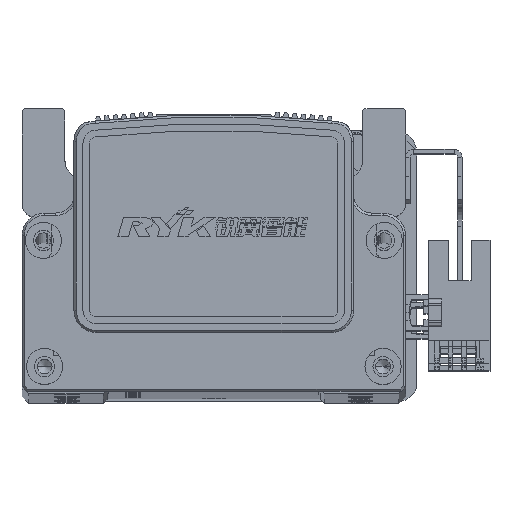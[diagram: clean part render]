
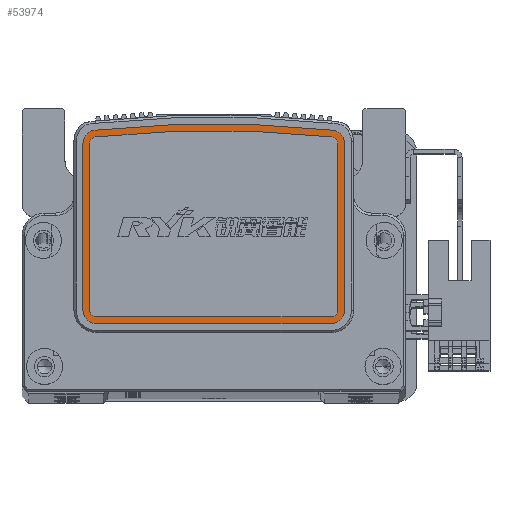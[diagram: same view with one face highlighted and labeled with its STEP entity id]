
A CAD part, top view. The second image highlights one B-rep face of the part: STEP entity #53974.
In plain terms, the highlighted planar face has unit normal (0, 0, 1) as drawn and (1, 0, 0) by its records, which use the part's own axes.
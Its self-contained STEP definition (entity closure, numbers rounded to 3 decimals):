
#5803 = VERTEX_POINT ( 'NONE', #61791 ) ;
#5884 = VERTEX_POINT ( 'NONE', #61840 ) ;
#6144 = VERTEX_POINT ( 'NONE', #61816 ) ;
#6148 = VERTEX_POINT ( 'NONE', #61833 ) ;
#12214 = VERTEX_POINT ( 'NONE', #54952 ) ;
#12228 = VERTEX_POINT ( 'NONE', #54923 ) ;
#12239 = VERTEX_POINT ( 'NONE', #54943 ) ;
#12240 = VERTEX_POINT ( 'NONE', #54944 ) ;
#12242 = VERTEX_POINT ( 'NONE', #54961 ) ;
#12247 = VERTEX_POINT ( 'NONE', #55009 ) ;
#12253 = VERTEX_POINT ( 'NONE', #55015 ) ;
#12286 = VERTEX_POINT ( 'NONE', #55003 ) ;
#15565 = EDGE_CURVE ( 'NONE', #6144, #5803, #63987, .T. ) ;
#15594 = EDGE_CURVE ( 'NONE', #58972, #58810, #62864, .T. ) ;
#15597 = EDGE_CURVE ( 'NONE', #59183, #58850, #63091, .T. ) ;
#15599 = EDGE_CURVE ( 'NONE', #5884, #58972, #63263, .T. ) ;
#15615 = EDGE_CURVE ( 'NONE', #58810, #6148, #63980, .T. ) ;
#15620 = EDGE_CURVE ( 'NONE', #6148, #6144, #65916, .T. ) ;
#15629 = EDGE_CURVE ( 'NONE', #58850, #5884, #65879, .T. ) ;
#15640 = EDGE_CURVE ( 'NONE', #5803, #59183, #65883, .T. ) ;
#17728 = FACE_BOUND ( 'NONE', #18433, .T. ) ;
#17812 = FACE_OUTER_BOUND ( 'NONE', #18425, .T. ) ;
#18425 = EDGE_LOOP ( 'NONE', ( #36931, #36920, #36959, #36987, #36925, #36942, #36892, #36935 ) ) ;
#18433 = EDGE_LOOP ( 'NONE', ( #36879, #36924, #36966, #36889, #36896, #36984, #36926, #36921 ) ) ;
#18628 = CIRCLE ( 'NONE', #56579, 3. ) ;
#18644 = LINE ( 'NONE', #21274, #18647 ) ;
#18647 = VECTOR ( 'NONE', #21250, 1000. ) ;
#18670 = CIRCLE ( 'NONE', #56589, 3. ) ;
#18679 = CIRCLE ( 'NONE', #56584, 3. ) ;
#18686 = CIRCLE ( 'NONE', #56690, 246.313 ) ;
#18713 = CIRCLE ( 'NONE', #56671, 3. ) ;
#18717 = LINE ( 'NONE', #21256, #18732 ) ;
#18721 = LINE ( 'NONE', #22296, #18726 ) ;
#18726 = VECTOR ( 'NONE', #22285, 1000. ) ;
#18732 = VECTOR ( 'NONE', #21258, 1000. ) ;
#19316 = DIRECTION ( 'NONE',  ( 1., 0., 0. ) ) ;
#19319 = DIRECTION ( 'NONE',  ( 0., 0., -1. ) ) ;
#19345 = PLANE ( 'NONE',  #56414 ) ;
#19354 = CARTESIAN_POINT ( 'NONE',  ( 9., 19.871, 26. ) ) ;
#21250 = DIRECTION ( 'NONE',  ( 0., -1., 0. ) ) ;
#21256 = CARTESIAN_POINT ( 'NONE',  ( 9., -17., -29. ) ) ;
#21258 = DIRECTION ( 'NONE',  ( 0., 1., 0. ) ) ;
#21274 = CARTESIAN_POINT ( 'NONE',  ( 9., 19.871, 29. ) ) ;
#21312 = CARTESIAN_POINT ( 'NONE',  ( 9., -17., -27.5 ) ) ;
#21322 = CARTESIAN_POINT ( 'NONE',  ( 9., 19.871, -27.5 ) ) ;
#21330 = CARTESIAN_POINT ( 'NONE',  ( 9., -17., 27.5 ) ) ;
#21332 = CARTESIAN_POINT ( 'NONE',  ( 9., -18.5, 26. ) ) ;
#22221 = DIRECTION ( 'NONE',  ( 0., 0., 1. ) ) ;
#22223 = CARTESIAN_POINT ( 'NONE',  ( 9., 19.871, 26. ) ) ;
#22232 = DIRECTION ( 'NONE',  ( 1., 0., 0. ) ) ;
#22242 = DIRECTION ( 'NONE',  ( 1., 0., 0. ) ) ;
#22243 = CARTESIAN_POINT ( 'NONE',  ( 9., 19.871, -26. ) ) ;
#22244 = DIRECTION ( 'NONE',  ( 0., 0., -1. ) ) ;
#22285 = DIRECTION ( 'NONE',  ( 0., 0., -1. ) ) ;
#22287 = DIRECTION ( 'NONE',  ( 1., 0., 0. ) ) ;
#22291 = DIRECTION ( 'NONE',  ( 0., 0., -1. ) ) ;
#22295 = CARTESIAN_POINT ( 'NONE',  ( 9., -17., 26. ) ) ;
#22296 = CARTESIAN_POINT ( 'NONE',  ( 9., -20., 26. ) ) ;
#22330 = DIRECTION ( 'NONE',  ( 1., 0., 0. ) ) ;
#22332 = CARTESIAN_POINT ( 'NONE',  ( 9., -222.049, 0. ) ) ;
#22333 = DIRECTION ( 'NONE',  ( 0., 0., -1. ) ) ;
#22348 = DIRECTION ( 'NONE',  ( 0., 0., -1. ) ) ;
#22356 = CARTESIAN_POINT ( 'NONE',  ( 9., -17., -26. ) ) ;
#22358 = DIRECTION ( 'NONE',  ( 1., 0., 0. ) ) ;
#36879 = ORIENTED_EDGE ( 'NONE', *, *, #15620, .F. ) ;
#36889 = ORIENTED_EDGE ( 'NONE', *, *, #15599, .F. ) ;
#36892 = ORIENTED_EDGE ( 'NONE', *, *, #69757, .T. ) ;
#36896 = ORIENTED_EDGE ( 'NONE', *, *, #15629, .F. ) ;
#36920 = ORIENTED_EDGE ( 'NONE', *, *, #69776, .T. ) ;
#36921 = ORIENTED_EDGE ( 'NONE', *, *, #15565, .F. ) ;
#36924 = ORIENTED_EDGE ( 'NONE', *, *, #15615, .F. ) ;
#36925 = ORIENTED_EDGE ( 'NONE', *, *, #69813, .T. ) ;
#36926 = ORIENTED_EDGE ( 'NONE', *, *, #15640, .F. ) ;
#36931 = ORIENTED_EDGE ( 'NONE', *, *, #69766, .T. ) ;
#36935 = ORIENTED_EDGE ( 'NONE', *, *, #69803, .T. ) ;
#36942 = ORIENTED_EDGE ( 'NONE', *, *, #69782, .T. ) ;
#36959 = ORIENTED_EDGE ( 'NONE', *, *, #69786, .T. ) ;
#36966 = ORIENTED_EDGE ( 'NONE', *, *, #15594, .F. ) ;
#36984 = ORIENTED_EDGE ( 'NONE', *, *, #15597, .F. ) ;
#36987 = ORIENTED_EDGE ( 'NONE', *, *, #69788, .T. ) ;
#53974 = ADVANCED_FACE ( 'NONE', ( #17728, #17812 ), #19345, .T. ) ;
#54923 = CARTESIAN_POINT ( 'NONE',  ( 9., 19.871, 29. ) ) ;
#54943 = CARTESIAN_POINT ( 'NONE',  ( 9., 19.871, -29. ) ) ;
#54944 = CARTESIAN_POINT ( 'NONE',  ( 9., 22.854, -26.321 ) ) ;
#54952 = CARTESIAN_POINT ( 'NONE',  ( 9., -17., -29. ) ) ;
#54961 = CARTESIAN_POINT ( 'NONE',  ( 9., -17., 29. ) ) ;
#55003 = CARTESIAN_POINT ( 'NONE',  ( 9., -20., -26. ) ) ;
#55009 = CARTESIAN_POINT ( 'NONE',  ( 9., -20., 26. ) ) ;
#55015 = CARTESIAN_POINT ( 'NONE',  ( 9., 22.854, 26.321 ) ) ;
#55709 = AXIS2_PLACEMENT_3D ( 'NONE', #65423, #65426, #65436 ) ;
#55715 = AXIS2_PLACEMENT_3D ( 'NONE', #65466, #65502, #65493 ) ;
#55725 = AXIS2_PLACEMENT_3D ( 'NONE', #65441, #65425, #65435 ) ;
#55726 = AXIS2_PLACEMENT_3D ( 'NONE', #65474, #65471, #65473 ) ;
#55736 = AXIS2_PLACEMENT_3D ( 'NONE', #65376, #65348, #65366 ) ;
#56414 = AXIS2_PLACEMENT_3D ( 'NONE', #19354, #19316, #19319 ) ;
#56579 = AXIS2_PLACEMENT_3D ( 'NONE', #22243, #22242, #22244 ) ;
#56584 = AXIS2_PLACEMENT_3D ( 'NONE', #22295, #22287, #22291 ) ;
#56589 = AXIS2_PLACEMENT_3D ( 'NONE', #22223, #22232, #22221 ) ;
#56671 = AXIS2_PLACEMENT_3D ( 'NONE', #22356, #22358, #22348 ) ;
#56690 = AXIS2_PLACEMENT_3D ( 'NONE', #22332, #22330, #22333 ) ;
#58810 = VERTEX_POINT ( 'NONE', #21322 ) ;
#58850 = VERTEX_POINT ( 'NONE', #21332 ) ;
#58972 = VERTEX_POINT ( 'NONE', #21312 ) ;
#59183 = VERTEX_POINT ( 'NONE', #21330 ) ;
#61791 = CARTESIAN_POINT ( 'NONE',  ( 9., 19.871, 27.5 ) ) ;
#61816 = CARTESIAN_POINT ( 'NONE',  ( 9., 21.363, 26.16 ) ) ;
#61833 = CARTESIAN_POINT ( 'NONE',  ( 9., 21.363, -26.16 ) ) ;
#61840 = CARTESIAN_POINT ( 'NONE',  ( 9., -18.5, -26. ) ) ;
#62864 = LINE ( 'NONE', #65394, #62919 ) ;
#62919 = VECTOR ( 'NONE', #65399, 1000. ) ;
#63091 = CIRCLE ( 'NONE', #55709, 1.5 ) ;
#63263 = CIRCLE ( 'NONE', #55725, 1.5 ) ;
#63980 = CIRCLE ( 'NONE', #55715, 1.5 ) ;
#63987 = CIRCLE ( 'NONE', #55736, 1.5 ) ;
#65348 = DIRECTION ( 'NONE',  ( 1., 0., 0. ) ) ;
#65366 = DIRECTION ( 'NONE',  ( 0., 0., 1. ) ) ;
#65376 = CARTESIAN_POINT ( 'NONE',  ( 9., 19.871, 26. ) ) ;
#65394 = CARTESIAN_POINT ( 'NONE',  ( 9., 19.871, -27.5 ) ) ;
#65399 = DIRECTION ( 'NONE',  ( 0., 1., 0. ) ) ;
#65423 = CARTESIAN_POINT ( 'NONE',  ( 9., -17., 26. ) ) ;
#65425 = DIRECTION ( 'NONE',  ( 1., 0., 0. ) ) ;
#65426 = DIRECTION ( 'NONE',  ( 1., 0., 0. ) ) ;
#65435 = DIRECTION ( 'NONE',  ( 0., 0., 1. ) ) ;
#65436 = DIRECTION ( 'NONE',  ( 0., 0., 1. ) ) ;
#65441 = CARTESIAN_POINT ( 'NONE',  ( 9., -17., -26. ) ) ;
#65466 = CARTESIAN_POINT ( 'NONE',  ( 9., 19.871, -26. ) ) ;
#65471 = DIRECTION ( 'NONE',  ( 1., 0., 0. ) ) ;
#65473 = DIRECTION ( 'NONE',  ( 0., 0., 1. ) ) ;
#65474 = CARTESIAN_POINT ( 'NONE',  ( 9., -222.049, 0. ) ) ;
#65493 = DIRECTION ( 'NONE',  ( 0., 0., 1. ) ) ;
#65502 = DIRECTION ( 'NONE',  ( 1., 0., 0. ) ) ;
#65504 = CARTESIAN_POINT ( 'NONE',  ( 9., -18.5, 26. ) ) ;
#65509 = CARTESIAN_POINT ( 'NONE',  ( 9., 19.871, 27.5 ) ) ;
#65530 = DIRECTION ( 'NONE',  ( 0., 0., -1. ) ) ;
#65537 = DIRECTION ( 'NONE',  ( 0., -1., 0. ) ) ;
#65879 = LINE ( 'NONE', #65504, #65913 ) ;
#65883 = LINE ( 'NONE', #65509, #65891 ) ;
#65891 = VECTOR ( 'NONE', #65537, 1000. ) ;
#65913 = VECTOR ( 'NONE', #65530, 1000. ) ;
#65916 = CIRCLE ( 'NONE', #55726, 244.813 ) ;
#69757 = EDGE_CURVE ( 'NONE', #12239, #12240, #18628, .T. ) ;
#69766 = EDGE_CURVE ( 'NONE', #12253, #12228, #18670, .T. ) ;
#69776 = EDGE_CURVE ( 'NONE', #12228, #12242, #18644, .T. ) ;
#69782 = EDGE_CURVE ( 'NONE', #12214, #12239, #18717, .T. ) ;
#69786 = EDGE_CURVE ( 'NONE', #12242, #12247, #18679, .T. ) ;
#69788 = EDGE_CURVE ( 'NONE', #12247, #12286, #18721, .T. ) ;
#69803 = EDGE_CURVE ( 'NONE', #12240, #12253, #18686, .T. ) ;
#69813 = EDGE_CURVE ( 'NONE', #12286, #12214, #18713, .T. ) ;
